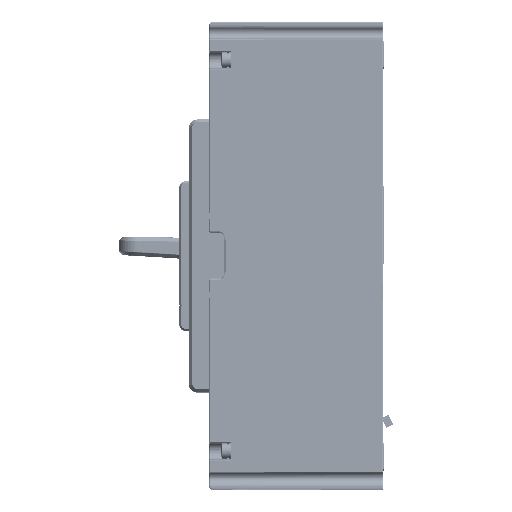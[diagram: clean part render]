
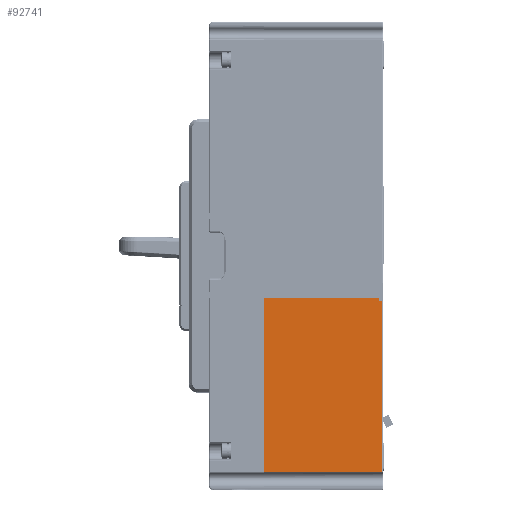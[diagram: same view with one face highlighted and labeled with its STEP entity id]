
A CAD part, top view. The second image highlights one B-rep face of the part: STEP entity #92741.
In plain terms, the highlighted planar face has unit normal (0, 0, 1) as drawn and (0, 0, -1) by its records, which use the part's own axes.
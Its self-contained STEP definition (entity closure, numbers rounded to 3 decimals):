
#9947=DIRECTION('',(1.,0.,0.));
#9948=VECTOR('',#9947,95.283);
#9949=CARTESIAN_POINT('',(23.5,20.8,-123.));
#9950=LINE('',#9949,#9948);
#11222=DIRECTION('',(-1.,0.,0.));
#11223=VECTOR('',#11222,93.783);
#11224=CARTESIAN_POINT('',(118.783,-44.4,-123.));
#11225=LINE('',#11224,#11223);
#28184=DIRECTION('',(0.,-1.,0.));
#28185=VECTOR('',#28184,63.2);
#28186=CARTESIAN_POINT('',(23.5,20.8,-123.));
#28187=LINE('',#28186,#28185);
#28188=DIRECTION('',(1.,0.,0.));
#28189=VECTOR('',#28188,1.5);
#28190=CARTESIAN_POINT('',(23.5,-42.4,-123.));
#28191=LINE('',#28190,#28189);
#28192=DIRECTION('',(0.,-1.,0.));
#28193=VECTOR('',#28192,2.);
#28194=CARTESIAN_POINT('',(25.,-42.4,-123.));
#28195=LINE('',#28194,#28193);
#28196=DIRECTION('',(0.,-1.,0.));
#28197=VECTOR('',#28196,65.2);
#28198=CARTESIAN_POINT('',(118.783,20.8,-123.));
#28199=LINE('',#28198,#28197);
#41564=CARTESIAN_POINT('',(118.783,-44.4,-123.));
#41565=CARTESIAN_POINT('',(25.,-44.4,-123.));
#41566=VERTEX_POINT('',#41564);
#41567=VERTEX_POINT('',#41565);
#41568=CARTESIAN_POINT('',(118.783,20.8,-123.));
#41569=VERTEX_POINT('',#41568);
#41570=CARTESIAN_POINT('',(23.5,20.8,-123.));
#41571=VERTEX_POINT('',#41570);
#41572=CARTESIAN_POINT('',(23.5,-42.4,-123.));
#41573=VERTEX_POINT('',#41572);
#41574=CARTESIAN_POINT('',(25.,-42.4,-123.));
#41575=VERTEX_POINT('',#41574);
#92727=CARTESIAN_POINT('',(0.,0.,-123.));
#92728=DIRECTION('',(0.,0.,1.));
#92729=DIRECTION('',(1.,0.,0.));
#92730=AXIS2_PLACEMENT_3D('',#92727,#92728,#92729);
#92731=PLANE('',#92730);
#92732=ORIENTED_EDGE('',*,*,#68007,.F.);
#92734=ORIENTED_EDGE('',*,*,#92733,.F.);
#92735=ORIENTED_EDGE('',*,*,#66695,.F.);
#92736=ORIENTED_EDGE('',*,*,#92719,.T.);
#92737=ORIENTED_EDGE('',*,*,#68041,.T.);
#92738=ORIENTED_EDGE('',*,*,#68028,.T.);
#92739=EDGE_LOOP('',(#92732,#92734,#92735,#92736,#92737,#92738));
#92740=FACE_OUTER_BOUND('',#92739,.F.);
#92741=ADVANCED_FACE('',(#92740),#92731,.F.);
#66695=EDGE_CURVE('',#41571,#41569,#9950,.T.);
#68007=EDGE_CURVE('',#41566,#41567,#11225,.T.);
#68028=EDGE_CURVE('',#41575,#41567,#28195,.T.);
#68041=EDGE_CURVE('',#41573,#41575,#28191,.T.);
#92719=EDGE_CURVE('',#41571,#41573,#28187,.T.);
#92733=EDGE_CURVE('',#41569,#41566,#28199,.T.);
